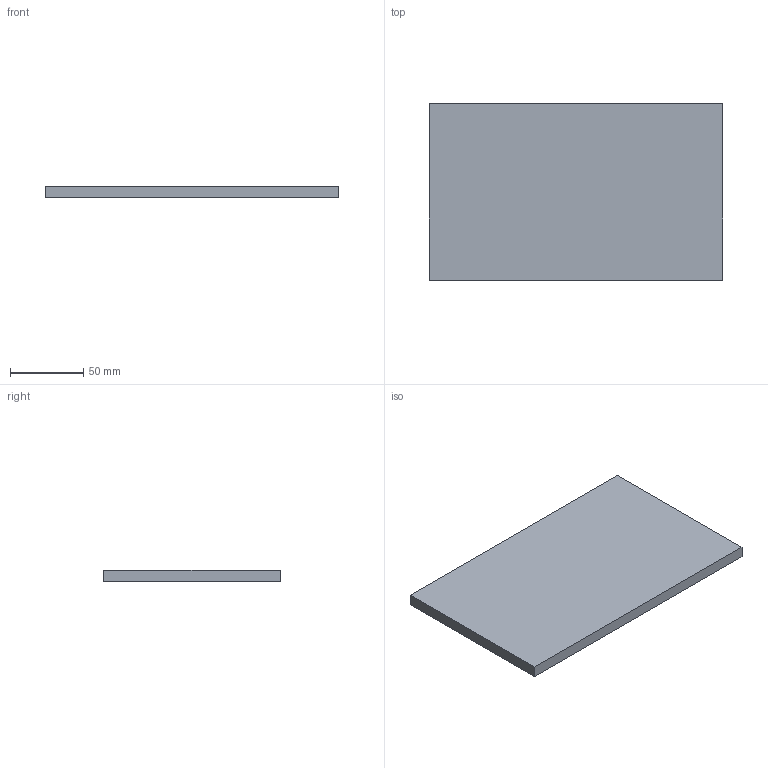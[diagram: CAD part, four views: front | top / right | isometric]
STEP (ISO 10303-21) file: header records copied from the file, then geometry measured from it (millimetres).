
FILE_DESCRIPTION(('Open CASCADE Model'),'2;1');
FILE_NAME('Open CASCADE Shape Model','2026-10-28T04:26:02',('Author'),( 'Open CASCADE'),'Open CASCADE STEP processor 7.8','Open CASCADE 7.8' ,'Unknown');
FILE_SCHEMA(('AUTOMOTIVE_DESIGN { 1 0 10303 214 1 1 1 1 }'));
Length unit declared in the file: millimetre
Products named in the file (1): Open CASCADE STEP translator 7.8 1
Bounding box: 200 x 120 x 8 mm (x, y, z)
Volume: 192000 mm3; surface area: 53120 mm2
Topology: 1 solids, 1 shells, 6 faces, 12 edges, 8 vertices
Faces by surface type: plane 6
Entity records: 322 total; most frequent: CARTESIAN_POINT 51, DIRECTION 50, LINE 36, VECTOR 36, ORIENTED_EDGE 24, PCURVE 24, DEFINITIONAL_REPRESENTATION 24, EDGE_CURVE 12
